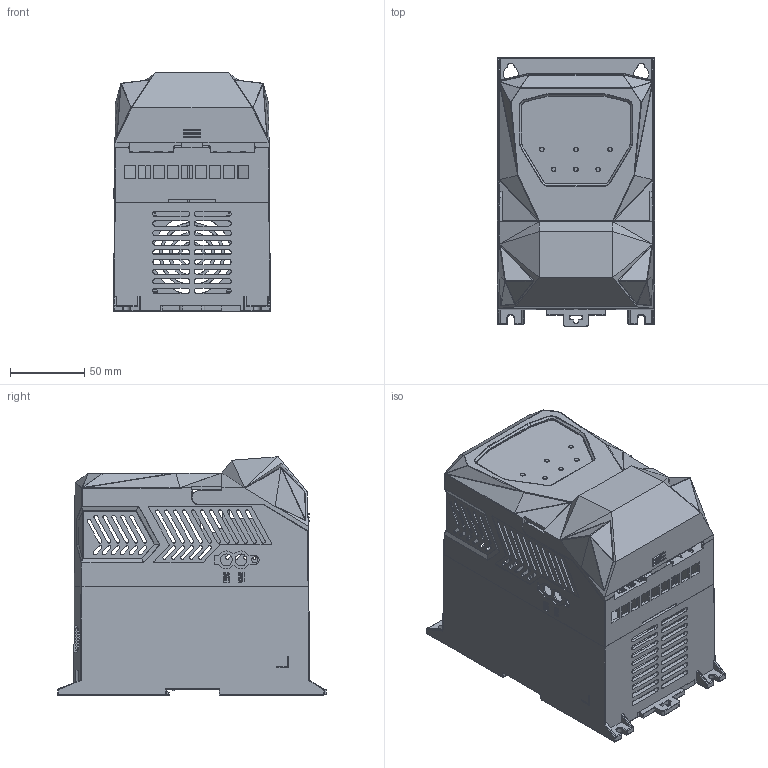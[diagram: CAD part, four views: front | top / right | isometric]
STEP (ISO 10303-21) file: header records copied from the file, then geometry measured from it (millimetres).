
FILE_DESCRIPTION(('CATIA V5 STEP Exchange'),'2;1');
FILE_NAME('F:\结构共享\01.外发资料\外形尺寸图 - 副本\0.变频\E600\Q2.stp','2024-05-28T06:12:05+00:00',('none'),('none'),'CATIA Version 5 Release 21 GA (IN-10)','CATIA V5 STEP AP203 Edition 2','none');
FILE_SCHEMA(('AP203_CONFIGURATION_CONTROLLED_3D_DESIGN_OF_MECHANICAL_PARTS_AND_ASSEMBLIES_MIM_LF { 1 0 10303 403 2 1 2}'));
Products named in the file (1): q2
Bounding box: 106.08 x 181.55 x 161 mm (x, y, z)
Volume: 225977.3 mm3; surface area: 228156.2 mm2
Topology: 10 solids, 10 shells, 3274 faces, 9000 edges, 5816 vertices
Faces by surface type: plane 1882, cylinder 803, extrusion 300, bspline 98, torus 87, sphere 65, cone 39
Entity records: 123836 total; most frequent: CARTESIAN_POINT 42665, ORIENTED_EDGE 17998, DIRECTION 12876, EDGE_CURVE 8999, VECTOR 6624, LINE 6324, VERTEX_POINT 5816, EDGE_LOOP 3601
